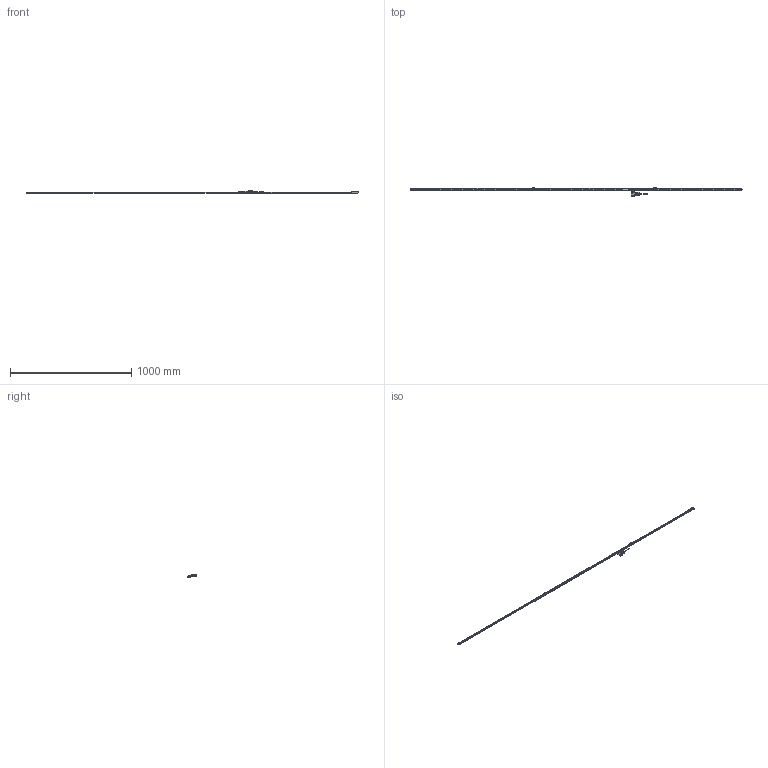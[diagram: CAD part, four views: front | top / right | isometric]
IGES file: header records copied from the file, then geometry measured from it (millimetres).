
Start section: Elysium IGES Interface
Global section: file name: 79H\\Utsu119s\kiyo_cad\data\3D\ST46EZA\HP掲載用_201803\ST46EZA-D\ST46EZA-2600D.igs; native system: Creo Elements/Direct Modeling 18.1B  29-Sep-2012; preprocessor: Creo Element/Direct IGES_3D V2.2; author: Unknown; organization: Unknown; date: 20180322.175945; units: millimetre
Bounding box: 2742 x 74.86 x 18.68 mm (x, y, z)
Volume: 230458.9 mm3; surface area: 156774.4 mm2
Topology: 3 solids, 5 shells, 2809 faces, 7530 edges, 4913 vertices
Faces by surface type: bspline 2809
